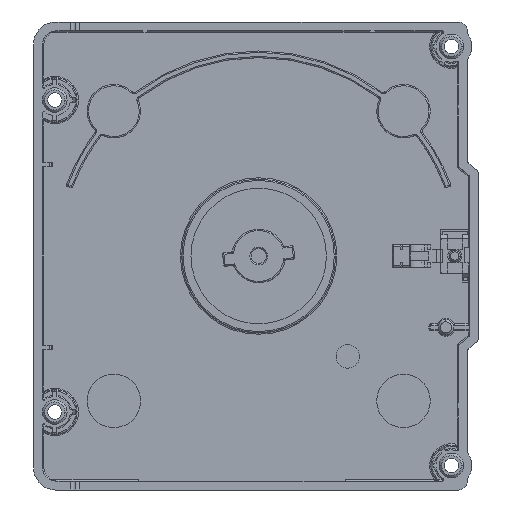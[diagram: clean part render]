
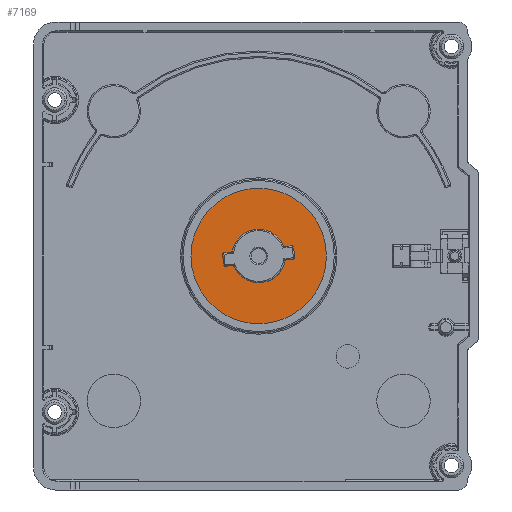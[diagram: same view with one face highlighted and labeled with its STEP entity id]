
A CAD part, front view. The second image highlights one B-rep face of the part: STEP entity #7169.
In plain terms, the highlighted planar face has unit normal (0, -1, 0).
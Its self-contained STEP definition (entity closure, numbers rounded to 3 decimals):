
#7169=ADVANCED_FACE('',(#11248,#11249),#9839,.T.);
#9839=PLANE('',#60488);
#11248=FACE_BOUND('',#12482,.T.);
#11249=FACE_BOUND('',#12483,.T.);
#12482=EDGE_LOOP('',(#30070,#30071,#30072,#30073,#30074,#30075,#30076,#30077,
#30078,#30079,#30080,#30081,#30082,#30083,#30084,#30085));
#12483=EDGE_LOOP('',(#30086,#30087));
#16066=LINE('',#88903,#21249);
#16067=LINE('',#88908,#21250);
#16068=LINE('',#88916,#21251);
#16069=LINE('',#88920,#21252);
#16070=LINE('',#88924,#21253);
#16071=LINE('',#88932,#21254);
#21249=VECTOR('',#69406,1.);
#21250=VECTOR('',#69409,1.);
#21251=VECTOR('',#69416,1.);
#21252=VECTOR('',#69419,1.);
#21253=VECTOR('',#69422,1.);
#21254=VECTOR('',#69429,1.);
#30070=ORIENTED_EDGE('',*,*,#49816,.T.);
#30071=ORIENTED_EDGE('',*,*,#49817,.T.);
#30072=ORIENTED_EDGE('',*,*,#49818,.T.);
#30073=ORIENTED_EDGE('',*,*,#49819,.F.);
#30074=ORIENTED_EDGE('',*,*,#49820,.T.);
#30075=ORIENTED_EDGE('',*,*,#49821,.F.);
#30076=ORIENTED_EDGE('',*,*,#49822,.T.);
#30077=ORIENTED_EDGE('',*,*,#49823,.T.);
#30078=ORIENTED_EDGE('',*,*,#49824,.T.);
#30079=ORIENTED_EDGE('',*,*,#49825,.T.);
#30080=ORIENTED_EDGE('',*,*,#49826,.T.);
#30081=ORIENTED_EDGE('',*,*,#49827,.F.);
#30082=ORIENTED_EDGE('',*,*,#49828,.T.);
#30083=ORIENTED_EDGE('',*,*,#49829,.F.);
#30084=ORIENTED_EDGE('',*,*,#49830,.T.);
#30085=ORIENTED_EDGE('',*,*,#49831,.T.);
#30086=ORIENTED_EDGE('',*,*,#48054,.T.);
#30087=ORIENTED_EDGE('',*,*,#48056,.T.);
#42624=VERTEX_POINT('',#82417);
#42627=VERTEX_POINT('',#82422);
#43631=VERTEX_POINT('',#88904);
#43632=VERTEX_POINT('',#88905);
#43633=VERTEX_POINT('',#88907);
#43634=VERTEX_POINT('',#88909);
#43635=VERTEX_POINT('',#88911);
#43636=VERTEX_POINT('',#88913);
#43637=VERTEX_POINT('',#88915);
#43638=VERTEX_POINT('',#88917);
#43639=VERTEX_POINT('',#88919);
#43640=VERTEX_POINT('',#88921);
#43641=VERTEX_POINT('',#88923);
#43642=VERTEX_POINT('',#88925);
#43643=VERTEX_POINT('',#88927);
#43644=VERTEX_POINT('',#88929);
#43645=VERTEX_POINT('',#88931);
#43646=VERTEX_POINT('',#88933);
#48054=EDGE_CURVE('',#42624,#42627,#56166,.T.);
#48056=EDGE_CURVE('',#42627,#42624,#56168,.T.);
#49816=EDGE_CURVE('',#43631,#43632,#16066,.T.);
#49817=EDGE_CURVE('',#43632,#43633,#56924,.T.);
#49818=EDGE_CURVE('',#43633,#43634,#16067,.T.);
#49819=EDGE_CURVE('',#43635,#43634,#56925,.T.);
#49820=EDGE_CURVE('',#43635,#43636,#56926,.T.);
#49821=EDGE_CURVE('',#43637,#43636,#56927,.T.);
#49822=EDGE_CURVE('',#43637,#43638,#16068,.T.);
#49823=EDGE_CURVE('',#43638,#43639,#56928,.T.);
#49824=EDGE_CURVE('',#43639,#43640,#16069,.T.);
#49825=EDGE_CURVE('',#43640,#43641,#56929,.T.);
#49826=EDGE_CURVE('',#43641,#43642,#16070,.T.);
#49827=EDGE_CURVE('',#43643,#43642,#56930,.T.);
#49828=EDGE_CURVE('',#43643,#43644,#56931,.T.);
#49829=EDGE_CURVE('',#43645,#43644,#56932,.T.);
#49830=EDGE_CURVE('',#43645,#43646,#16071,.T.);
#49831=EDGE_CURVE('',#43646,#43631,#56933,.T.);
#56166=CIRCLE('',#58923,24.5);
#56168=CIRCLE('',#58926,24.5);
#56924=CIRCLE('',#60478,0.3);
#56925=CIRCLE('',#60479,0.3);
#56926=CIRCLE('',#60480,6.);
#56927=CIRCLE('',#60481,0.3);
#56928=CIRCLE('',#60482,0.3);
#56929=CIRCLE('',#60483,0.3);
#56930=CIRCLE('',#60484,0.3);
#56931=CIRCLE('',#60485,6.);
#56932=CIRCLE('',#60486,0.3);
#56933=CIRCLE('',#60487,0.3);
#58923=AXIS2_PLACEMENT_3D('',#82423,#65485,#65486);
#58926=AXIS2_PLACEMENT_3D('',#82426,#65491,#65492);
#60478=AXIS2_PLACEMENT_3D('',#88906,#69407,#69408);
#60479=AXIS2_PLACEMENT_3D('',#88910,#69410,#69411);
#60480=AXIS2_PLACEMENT_3D('',#88912,#69412,#69413);
#60481=AXIS2_PLACEMENT_3D('',#88914,#69414,#69415);
#60482=AXIS2_PLACEMENT_3D('',#88918,#69417,#69418);
#60483=AXIS2_PLACEMENT_3D('',#88922,#69420,#69421);
#60484=AXIS2_PLACEMENT_3D('',#88926,#69423,#69424);
#60485=AXIS2_PLACEMENT_3D('',#88928,#69425,#69426);
#60486=AXIS2_PLACEMENT_3D('',#88930,#69427,#69428);
#60487=AXIS2_PLACEMENT_3D('',#88934,#69430,#69431);
#60488=AXIS2_PLACEMENT_3D('',#88935,#69432,#69433);
#65485=DIRECTION('',(0.,-1.,0.));
#65486=DIRECTION('',(-1.,0.,0.));
#65491=DIRECTION('',(0.,-1.,0.));
#65492=DIRECTION('',(1.,0.,0.));
#69406=DIRECTION('',(-0.105,0.,0.995));
#69407=DIRECTION('',(0.,1.,0.));
#69408=DIRECTION('',(-0.105,0.,0.995));
#69409=DIRECTION('',(0.995,0.,0.105));
#69410=DIRECTION('',(0.,1.,0.));
#69411=DIRECTION('',(-0.105,0.,0.995));
#69412=DIRECTION('',(0.,1.,0.));
#69413=DIRECTION('',(-0.105,0.,0.995));
#69414=DIRECTION('',(0.,1.,0.));
#69415=DIRECTION('',(-0.105,0.,0.995));
#69416=DIRECTION('',(0.995,0.,0.105));
#69417=DIRECTION('',(0.,1.,0.));
#69418=DIRECTION('',(-0.105,0.,0.995));
#69419=DIRECTION('',(0.105,0.,-0.995));
#69420=DIRECTION('',(0.,1.,0.));
#69421=DIRECTION('',(-0.105,0.,0.995));
#69422=DIRECTION('',(-0.995,0.,-0.105));
#69423=DIRECTION('',(0.,1.,0.));
#69424=DIRECTION('',(-0.105,0.,0.995));
#69425=DIRECTION('',(0.,1.,0.));
#69426=DIRECTION('',(-0.105,0.,0.995));
#69427=DIRECTION('',(0.,1.,0.));
#69428=DIRECTION('',(-0.105,0.,0.995));
#69429=DIRECTION('',(-0.995,0.,-0.105));
#69430=DIRECTION('',(0.,1.,0.));
#69431=DIRECTION('',(-0.105,0.,0.995));
#69432=DIRECTION('',(0.,-1.,0.));
#69433=DIRECTION('',(-0.105,0.,0.995));
#82417=CARTESIAN_POINT('',(-38.5,74.,0.));
#82422=CARTESIAN_POINT('',(10.5,74.,0.));
#82423=CARTESIAN_POINT('',(-14.,74.,0.));
#82426=CARTESIAN_POINT('',(-14.,74.,0.));
#88903=CARTESIAN_POINT('',(-22.113,74.,0.656));
#88904=CARTESIAN_POINT('',(-21.831,74.,-2.03));
#88905=CARTESIAN_POINT('',(-22.082,74.,0.357));
#88906=CARTESIAN_POINT('',(-21.783,74.,0.389));
#88907=CARTESIAN_POINT('',(-21.815,74.,0.687));
#88908=CARTESIAN_POINT('',(-21.211,74.,0.75));
#88909=CARTESIAN_POINT('',(-20.161,74.,0.861));
#88910=CARTESIAN_POINT('',(-20.192,74.,1.159));
#88911=CARTESIAN_POINT('',(-19.898,74.,1.104));
#88912=CARTESIAN_POINT('',(-14.,74.,0.));
#88913=CARTESIAN_POINT('',(-8.461,74.,2.306));
#88914=CARTESIAN_POINT('',(-8.184,74.,2.421));
#88915=CARTESIAN_POINT('',(-8.152,74.,2.123));
#88916=CARTESIAN_POINT('',(-6.201,74.,2.328));
#88917=CARTESIAN_POINT('',(-6.499,74.,2.297));
#88918=CARTESIAN_POINT('',(-6.468,74.,1.998));
#88919=CARTESIAN_POINT('',(-6.169,74.,2.03));
#88920=CARTESIAN_POINT('',(-5.887,74.,-0.656));
#88921=CARTESIAN_POINT('',(-5.918,74.,-0.357));
#88922=CARTESIAN_POINT('',(-6.217,74.,-0.389));
#88923=CARTESIAN_POINT('',(-6.185,74.,-0.687));
#88924=CARTESIAN_POINT('',(-6.789,74.,-0.75));
#88925=CARTESIAN_POINT('',(-7.839,74.,-0.861));
#88926=CARTESIAN_POINT('',(-7.808,74.,-1.159));
#88927=CARTESIAN_POINT('',(-8.102,74.,-1.104));
#88928=CARTESIAN_POINT('',(-14.,74.,0.));
#88929=CARTESIAN_POINT('',(-19.539,74.,-2.306));
#88930=CARTESIAN_POINT('',(-19.816,74.,-2.421));
#88931=CARTESIAN_POINT('',(-19.848,74.,-2.123));
#88932=CARTESIAN_POINT('',(-21.799,74.,-2.328));
#88933=CARTESIAN_POINT('',(-21.501,74.,-2.297));
#88934=CARTESIAN_POINT('',(-21.532,74.,-1.998));
#88935=CARTESIAN_POINT('',(-14.,74.,0.));
